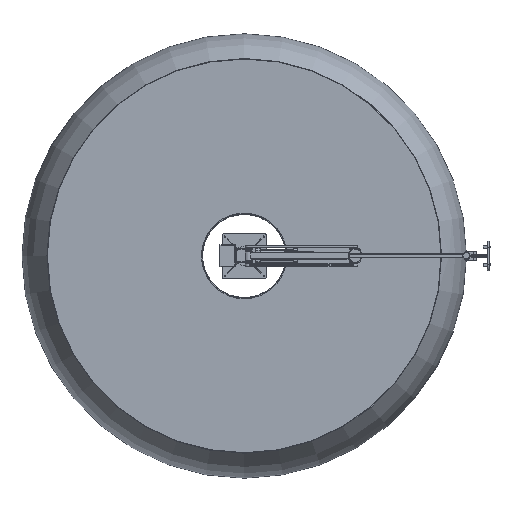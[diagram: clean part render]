
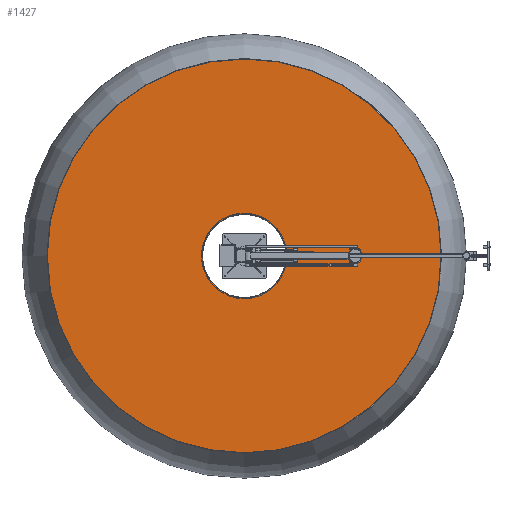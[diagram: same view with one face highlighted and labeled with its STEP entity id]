
A CAD part, top view. The second image highlights one B-rep face of the part: STEP entity #1427.
In plain terms, the highlighted planar face has unit normal (0, 0, 1).
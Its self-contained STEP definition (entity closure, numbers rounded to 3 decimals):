
#1427 = ADVANCED_FACE( '', ( #3072, #3073 ), #3074, .F. );
#3072 = FACE_BOUND( '', #5561, .T. );
#3073 = FACE_OUTER_BOUND( '', #5562, .T. );
#3074 = PLANE( '', #5563 );
#5561 = EDGE_LOOP( '', ( #9976 ) );
#5562 = EDGE_LOOP( '', ( #9977 ) );
#5563 = AXIS2_PLACEMENT_3D( '', #9978, #9979, #9980 );
#9976 = ORIENTED_EDGE( '', *, *, #16123, .F. );
#9977 = ORIENTED_EDGE( '', *, *, #15768, .T. );
#9978 = CARTESIAN_POINT( '', ( 567.572, 0., 2259.726 ) );
#9979 = DIRECTION( '', ( 0., 0., -1. ) );
#9980 = DIRECTION( '', ( -1., 0., 0. ) );
#15768 = EDGE_CURVE( '', #18211, #18211, #18212, .T. );
#16123 = EDGE_CURVE( '', #18763, #18763, #18764, .T. );
#18211 = VERTEX_POINT( '', #24041 );
#18212 = CIRCLE( '', #24042, 2663.572 );
#18763 = VERTEX_POINT( '', #25919 );
#18764 = CIRCLE( '', #25920, 567.572 );
#24041 = CARTESIAN_POINT( '', ( 2663.572, 0., 2259.726 ) );
#24042 = AXIS2_PLACEMENT_3D( '', #31671, #31672, #31673 );
#25919 = CARTESIAN_POINT( '', ( 567.572, 0., 2259.726 ) );
#25920 = AXIS2_PLACEMENT_3D( '', #32051, #32052, #32053 );
#31671 = CARTESIAN_POINT( '', ( 0., 0., 2259.726 ) );
#31672 = DIRECTION( '', ( 0., 0., 1. ) );
#31673 = DIRECTION( '', ( 1., 0., 0. ) );
#32051 = CARTESIAN_POINT( '', ( 0., 0., 2259.726 ) );
#32052 = DIRECTION( '', ( 0., 0., 1. ) );
#32053 = DIRECTION( '', ( 1., 0., 0. ) );
